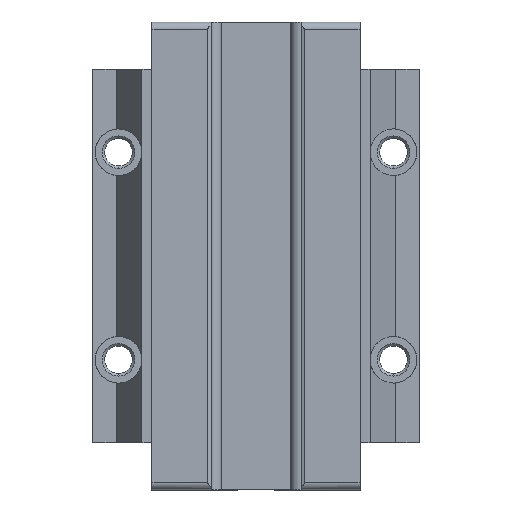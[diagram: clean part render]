
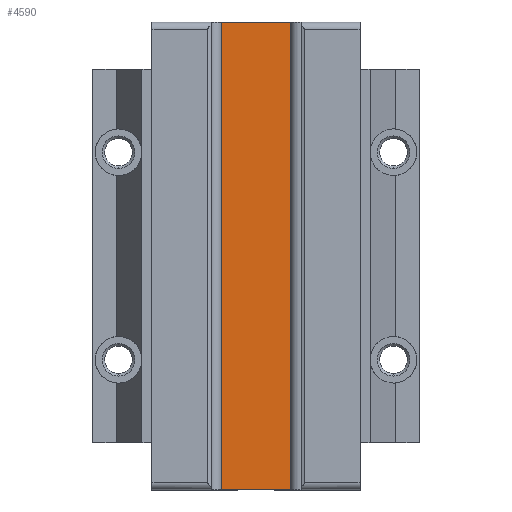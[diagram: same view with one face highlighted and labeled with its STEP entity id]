
A CAD part, front view. The second image highlights one B-rep face of the part: STEP entity #4590.
In plain terms, the highlighted planar face has unit normal (0, -1, 0).
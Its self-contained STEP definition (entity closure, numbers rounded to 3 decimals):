
#110 = VERTEX_POINT ( 'NONE', #1979 ) ;
#131 = VERTEX_POINT ( 'NONE', #2103 ) ;
#133 = EDGE_CURVE ( 'NONE', #131, #110, #2102, .T. ) ;
#1979 = CARTESIAN_POINT ( 'NONE',  ( -7.251, -9.695, -45.05 ) ) ;
#2099 = DIRECTION ( 'NONE',  ( -1., 0., 0. ) ) ;
#2100 = VECTOR ( 'NONE', #2099, 1000. ) ;
#2101 = CARTESIAN_POINT ( 'NONE',  ( -20.1, -9.695, -45.05 ) ) ;
#2102 = LINE ( 'NONE', #2101, #2100 ) ;
#2103 = CARTESIAN_POINT ( 'NONE',  ( 7.259, -9.695, -45.05 ) ) ;
#2124 = DIRECTION ( 'NONE',  ( 0., 0., 1. ) ) ;
#2137 = VECTOR ( 'NONE', #2124, 1000. ) ;
#2138 = CARTESIAN_POINT ( 'NONE',  ( -7.251, -9.695, -45.1 ) ) ;
#2143 = PLANE ( 'NONE',  #2153 ) ;
#2144 = FACE_OUTER_BOUND ( 'NONE', #4658, .T. ) ;
#2150 = DIRECTION ( 'NONE',  ( -1., 0., 0. ) ) ;
#2151 = DIRECTION ( 'NONE',  ( 0., 1., 0. ) ) ;
#2152 = CARTESIAN_POINT ( 'NONE',  ( 7.259, -9.695, -45.1 ) ) ;
#2153 = AXIS2_PLACEMENT_3D ( 'NONE', #2152, #2151, #2150 ) ;
#2154 = LINE ( 'NONE', #2138, #2137 ) ;
#2196 = DIRECTION ( 'NONE',  ( 0., 0., 1. ) ) ;
#2197 = VECTOR ( 'NONE', #2196, 1000. ) ;
#2198 = CARTESIAN_POINT ( 'NONE',  ( 7.259, -9.695, -45.1 ) ) ;
#2202 = LINE ( 'NONE', #2198, #2197 ) ;
#2306 = CARTESIAN_POINT ( 'NONE',  ( -7.251, -9.695, 45.05 ) ) ;
#2315 = CARTESIAN_POINT ( 'NONE',  ( 7.259, -9.695, 45.05 ) ) ;
#4590 = ADVANCED_FACE ( 'NONE', ( #2144 ), #2143, .F. ) ;
#4591 = EDGE_CURVE ( 'NONE', #110, #4960, #2154, .T. ) ;
#4626 = ORIENTED_EDGE ( 'NONE', *, *, #4591, .F. ) ;
#4652 = ORIENTED_EDGE ( 'NONE', *, *, #133, .F. ) ;
#4654 = EDGE_CURVE ( 'NONE', #131, #4988, #2202, .T. ) ;
#4658 = EDGE_LOOP ( 'NONE', ( #4659, #4678, #4626, #4652 ) ) ;
#4659 = ORIENTED_EDGE ( 'NONE', *, *, #4654, .T. ) ;
#4678 = ORIENTED_EDGE ( 'NONE', *, *, #5174, .T. ) ;
#4960 = VERTEX_POINT ( 'NONE', #2306 ) ;
#4988 = VERTEX_POINT ( 'NONE', #2315 ) ;
#5174 = EDGE_CURVE ( 'NONE', #4988, #4960, #10501, .T. ) ;
#10490 = DIRECTION ( 'NONE',  ( -1., 0., 0. ) ) ;
#10496 = VECTOR ( 'NONE', #10490, 1000. ) ;
#10497 = CARTESIAN_POINT ( 'NONE',  ( 7.259, -9.695, 45.05 ) ) ;
#10501 = LINE ( 'NONE', #10497, #10496 ) ;
